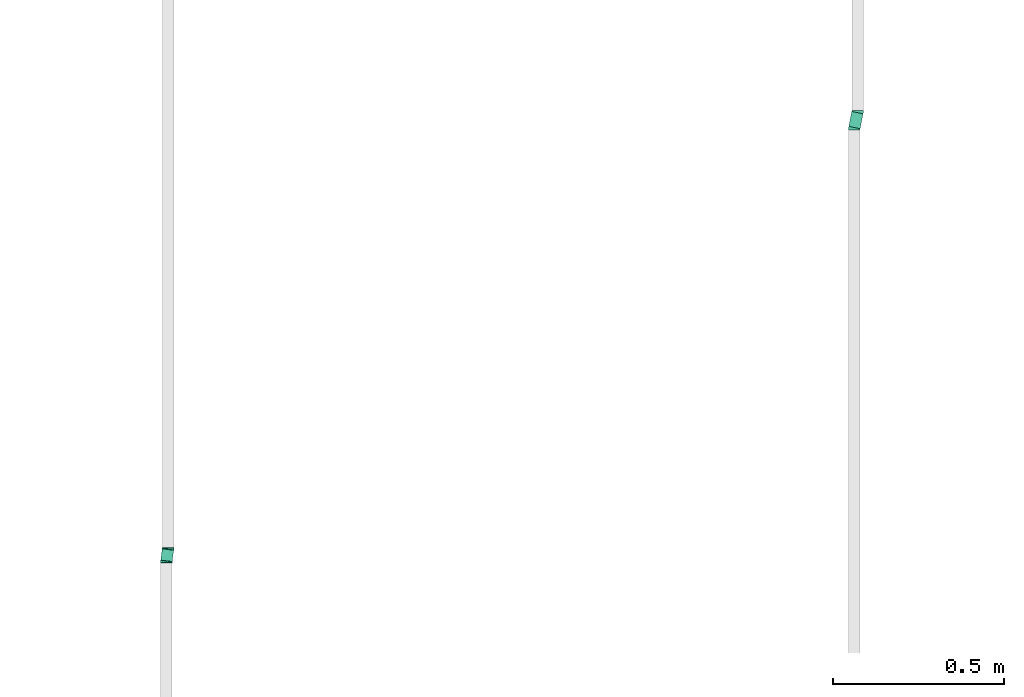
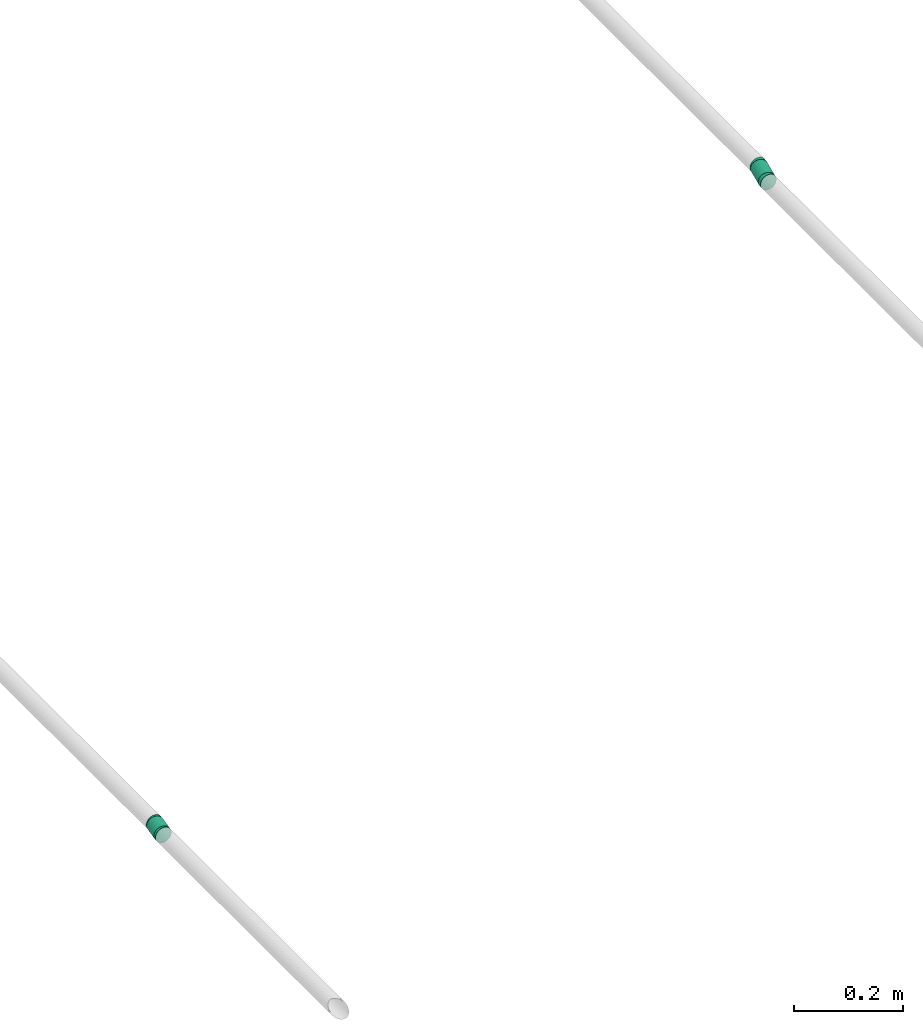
# One storey, part 19 of 32: 4 flow fittings, 2 flow segments.
"""IFC2X3 building model written with IfcOpenShell, lengths in millimetres."""

import ifcopenshell
import ifcopenshell.guid

model = None  # the IFC model being written
_history = None  # IfcOwnerHistory: only IFC2X3 demands one
_inside = {}  # id of a spatial element -> (the spatial element, [elements in it])
_under = {}  # id of a project, library or spatial element -> (it, [spatial elements below it])
_declared = {}  # id of a project -> (the project, [libraries it declares])
_typed = {}  # id of a type object -> (the type object, [elements of that type])
_made_of = {}  # id of a material, layer set ... -> (it, [elements and type objects made of it])


def new_model(schema):
    """Start an empty IFC model of exactly this schema.

    Asked for "IFC4X3", IfcOpenShell would pick the latest addendum, in which some entities
    have other attributes; the version numbers below select the first issue.
    IFC2X3 requires an IfcOwnerHistory on every rooted entity: one is made here for all.
    """
    global model, _history
    if schema == "IFC4X3":
        model = ifcopenshell.file(schema_version=(4, 3, 0, 0))
    else:
        model = ifcopenshell.file(schema=schema)
    _inside.clear()
    _under.clear()
    _declared.clear()
    _typed.clear()
    _made_of.clear()
    _history = None
    if model.schema == "IFC2X3":
        org = make("IfcOrganization", Name="unknown")
        user = make(
            "IfcPersonAndOrganization",
            ThePerson=make("IfcPerson", FamilyName="unknown"),
            TheOrganization=org,
        )
        app = make(
            "IfcApplication",
            ApplicationDeveloper=org,
            Version="unknown",
            ApplicationFullName="unknown",
            ApplicationIdentifier="unknown",
        )
        _history = make(
            "IfcOwnerHistory",
            OwningUser=user,
            OwningApplication=app,
            ChangeAction="ADDED",
            CreationDate=0,
        )
    return model


def make(cls, **values):
    """One entity of the class cls with the attributes given. An attribute that is None is left unset."""
    return model.create_entity(
        cls, **{name: value for name, value in values.items() if value is not None}
    )


def entity(cls, *values):
    """Any entity or typed value of the class cls, its attributes in the order of the schema. None: left unset."""
    e = model.create_entity(cls)
    for i, value in enumerate(values):
        if value is not None:
            e[i] = value
    return e


def rooted(cls, **values):
    """An entity with a GlobalId (a new one), such as an element, a storey or a relation."""
    return make(cls, GlobalId=ifcopenshell.guid.new(), OwnerHistory=_history, **values)


def si_unit(unit_type, name, prefix=None):
    """IfcSIUnit, for example si_unit("LENGTHUNIT", "METRE", prefix="MILLI")."""
    return make("IfcSIUnit", UnitType=unit_type, Prefix=prefix, Name=name)


def converted_unit(unit_type, name, factor, base, dimensions=None, offset=None):
    """IfcConversionBasedUnit, such as the inch: factor (a typed value) times the base unit."""
    return make(
        "IfcConversionBasedUnit"
        if offset is None
        else "IfcConversionBasedUnitWithOffset",
        ConversionOffset=offset,
        Dimensions=None
        if dimensions is None
        else entity("IfcDimensionalExponents", *dimensions),
        UnitType=unit_type,
        Name=name,
        ConversionFactor=make(
            "IfcMeasureWithUnit", ValueComponent=factor, UnitComponent=base
        ),
    )


def derived_unit(unit_type, elements):
    """IfcDerivedUnit: a product of units, each with its exponent."""
    return make(
        "IfcDerivedUnit",
        Elements=[
            make("IfcDerivedUnitElement", Unit=unit, Exponent=power)
            for unit, power in elements
        ],
        UnitType=unit_type,
    )


def assignment(units):
    """IfcUnitAssignment: the units of a project."""
    return None if units is None else make("IfcUnitAssignment", Units=units)


def point(xyz):
    """IfcCartesianPoint."""
    return None if xyz is None else make("IfcCartesianPoint", Coordinates=xyz)


def direction(xyz):
    """IfcDirection."""
    return None if xyz is None else make("IfcDirection", DirectionRatios=xyz)


def frame(location, z_axis=None, x_axis=None):
    """IfcAxis2Placement3D, a coordinate frame: its origin and axes. An axis left out is left unset."""
    return make(
        "IfcAxis2Placement3D",
        Location=point(location),
        Axis=direction(z_axis),
        RefDirection=direction(x_axis),
    )


def frame_2d(location, x_axis=None):
    """IfcAxis2Placement2D, a coordinate frame in the plane: its origin and x axis."""
    return make(
        "IfcAxis2Placement2D", Location=point(location), RefDirection=direction(x_axis)
    )


def origin_with_axes():
    """The frame at (0, 0, 0) with the z axis (0, 0, 1) and the x axis (1, 0, 0) written out."""
    return frame((0.0, 0.0, 0.0), z_axis=(0.0, 0.0, 1.0), x_axis=(1.0, 0.0, 0.0))


def origin_2d_with_axis():
    """The frame at (0, 0) in the plane with the x axis (1, 0) written out."""
    return frame_2d((0.0, 0.0), x_axis=(1.0, 0.0))


def place(relative_to, where):
    """IfcLocalPlacement: puts the frame where relative to a parent placement (None: the world)."""
    return make(
        "IfcLocalPlacement", PlacementRelTo=relative_to, RelativePlacement=where
    )


def context(
    kind, dimensions, precision=None, world=None, true_north=None, identifier=None
):
    """IfcGeometricRepresentationContext, for example the 3D "Model" context."""
    return make(
        "IfcGeometricRepresentationContext",
        ContextIdentifier=identifier,
        ContextType=kind,
        CoordinateSpaceDimension=dimensions,
        Precision=precision,
        WorldCoordinateSystem=world,
        TrueNorth=true_north,
    )


def subcontext(parent, identifier, kind, view, scale=None):
    """IfcGeometricRepresentationSubContext, for example "Body" below "Model"."""
    return make(
        "IfcGeometricRepresentationSubContext",
        ContextIdentifier=identifier,
        ContextType=kind,
        ParentContext=parent,
        TargetScale=scale,
        TargetView=view,
    )


def project(units=None, contexts=None):
    """IfcProject with its units and contexts."""
    return rooted(
        "IfcProject",
        Name="project",
        RepresentationContexts=contexts,
        UnitsInContext=assignment(units),
    )


def spatial(cls, under=None, at=None, **own):
    """A site, building, storey or space (cls), placed at a placement, below another one or the project."""
    s = rooted(cls, ObjectPlacement=at, **own)
    if under is not None:
        _under.setdefault(under.id(), (under, []))[1].append(s)
    return s


def profile(cls, at=None, kind="AREA", **sizes):
    """A parametric profile (cls). Its sizes go by their IFC names, for example OverallWidth=200.0."""
    return make(cls, ProfileType=kind, Position=at, **sizes)


def hollow_circle(**sizes):
    """IfcCircleHollowProfileDef."""
    return profile("IfcCircleHollowProfileDef", **sizes)


def extrude(swept, where, along, depth):
    """IfcExtrudedAreaSolid: the profile swept, set in the frame where, extruded along a direction by depth."""
    return make(
        "IfcExtrudedAreaSolid",
        SweptArea=swept,
        Position=where,
        ExtrudedDirection=direction(along),
        Depth=depth,
    )


def faces_of(points, faces, orient=None, outer=None):
    """IfcFace entities. A face is a list of loops; a loop is a list of indices into points, from 0.

    orient and outer hold one flag for each loop. By default every Orientation is true, the
    first loop of a face is its IfcFaceOuterBound and the others are IfcFaceBound.
    """
    made = []
    for i, loops in enumerate(faces):
        bounds = []
        for j, loop in enumerate(loops):
            is_outer = j == 0 if outer is None else outer[i][j]
            bounds.append(
                make(
                    "IfcFaceOuterBound" if is_outer else "IfcFaceBound",
                    Bound=make("IfcPolyLoop", Polygon=[points[k] for k in loop]),
                    Orientation=True if orient is None else orient[i][j],
                )
            )
        made.append(make("IfcFace", Bounds=bounds))
    return made


def open_shell(faces, orient=None, outer=None):
    """The faces of one IfcOpenShell. surface_model builds it on its shared points."""
    return ("IfcOpenShell", faces, orient, outer)


def surface_model(cls, points, shells):
    """IfcFaceBasedSurfaceModel or IfcShellBasedSurfaceModel (cls): surfaces that need not close."""
    shared = [point(p) for p in points]
    made = [make(c, CfsFaces=faces_of(shared, fs, o, b)) for c, fs, o, b in shells]
    if cls == "IfcFaceBasedSurfaceModel":
        return make(cls, FbsmFaces=made)
    return make(cls, SbsmBoundary=made)


def shape(context_of_items, identifier, shape_type, items):
    """IfcShapeRepresentation: the items that make up one representation, for example the "Body"."""
    return make(
        "IfcShapeRepresentation",
        ContextOfItems=context_of_items,
        RepresentationIdentifier=identifier,
        RepresentationType=shape_type,
        Items=items,
    )


def source(mapping_origin, context_of_items, identifier, shape_type, items):
    """IfcRepresentationMap: a shape defined once, which mapped items show again and again."""
    return make(
        "IfcRepresentationMap",
        MappingOrigin=mapping_origin,
        MappedRepresentation=shape(context_of_items, identifier, shape_type, items),
    )


def transform(
    local_origin,
    x_axis=None,
    y_axis=None,
    z_axis=None,
    scale=None,
    scale2=None,
    scale3=None,
    uniform=True,
):
    """IfcCartesianTransformationOperator3D, or its non-uniform kind. x_axis, y_axis, z_axis: its Axis1, 2, 3."""
    if uniform:
        return make(
            "IfcCartesianTransformationOperator3D",
            Axis1=direction(x_axis),
            Axis2=direction(y_axis),
            LocalOrigin=point(local_origin),
            Scale=scale,
            Axis3=direction(z_axis),
        )
    return make(
        "IfcCartesianTransformationOperator3DnonUniform",
        Axis1=direction(x_axis),
        Axis2=direction(y_axis),
        LocalOrigin=point(local_origin),
        Scale=scale,
        Axis3=direction(z_axis),
        Scale2=scale2,
        Scale3=scale3,
    )


def mapped(mapping_source, mapping_target):
    """IfcMappedItem: shows the shape of a source again, moved by a transform."""
    return make(
        "IfcMappedItem", MappingSource=mapping_source, MappingTarget=mapping_target
    )


def made_of(thing, what):
    """Note that an element or type object is made of a material, layer set ...; save() writes the relation."""
    if what is not None:
        _made_of.setdefault(what.id(), (what, []))[1].append(thing)
    return thing


def type_object(cls, material=None, **own):
    """A type object (cls), such as IfcWallType, which elements share."""
    return made_of(rooted(cls, **own), material)


def element(
    cls,
    number,
    at=None,
    inside=None,
    cuts=None,
    type_object=None,
    material=None,
    context=None,
    identifier="Body",
    shape_type=None,
    held_by="IfcProductDefinitionShape",
    body=None,
    shapes=None,
    **own,
):
    """One element of the class cls, such as IfcWall. Its Tag is "e" and its number.

    at: its placement. inside: the storey or other place that contains it. cuts: it is an
    opening in that element (IfcRelVoidsElement). A single representation is given by context,
    identifier, shape_type and body (its items); several are given by shapes. held_by: the class
    of the entity that holds the representations. save() writes the other relations.
    """
    e = rooted(cls, Tag="e%d" % number, ObjectPlacement=at, **own)
    if body is not None:
        shapes = [shape(context, identifier, shape_type, body)]
    if shapes is not None:
        e.Representation = make(held_by, Representations=shapes)
    if inside is not None:
        _inside.setdefault(inside.id(), (inside, []))[1].append(e)
    if cuts is not None:
        rooted(
            "IfcRelVoidsElement", RelatingBuildingElement=cuts, RelatedOpeningElement=e
        )
    if type_object is not None:
        _typed.setdefault(type_object.id(), (type_object, []))[1].append(e)
    return made_of(e, material)


def aggregate(whole, parts):
    """IfcRelAggregates: a whole, such as a stair, and the parts it consists of."""
    return rooted("IfcRelAggregates", RelatingObject=whole, RelatedObjects=parts)


def save(model, path):
    """Write the relations noted so far, then the file.

    IfcRelAggregates (storeys below a building ...), IfcRelContainedInSpatialStructure (elements
    in a storey), IfcRelDefinesByType, IfcRelAssociatesMaterial and IfcRelDeclares: one each for
    every whole, place, type object, material and project.
    """
    for whole, parts in _under.values():
        aggregate(whole, parts)
    for where, things in _inside.values():
        rooted(
            "IfcRelContainedInSpatialStructure",
            RelatedElements=things,
            RelatingStructure=where,
        )
    for kind, things in _typed.values():
        rooted("IfcRelDefinesByType", RelatedObjects=things, RelatingType=kind)
    for what, things in _made_of.values():
        rooted("IfcRelAssociatesMaterial", RelatedObjects=things, RelatingMaterial=what)
    for by, libraries in _declared.values():
        rooted("IfcRelDeclares", RelatingContext=by, RelatedDefinitions=libraries)
    model.write(path)


model = new_model("IFC2X3")

# Units and contexts
model_context = context("Model", 3, precision=0.01, world=frame((0.0, 4.29681676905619e-09, 0.0)), true_north=direction((4.01073788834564e-13, 1.0)))
plan_context = context("Plan", 3, precision=0.01, world=frame((0.0, 4.29681676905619e-09, 0.0)), true_north=direction((4.01073788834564e-13, 1.0)))
body_context = subcontext(model_context, "Body", "Model", "MODEL_VIEW")
ifc_project = project(units=[converted_unit("PLANEANGLEUNIT", "DEGREE", entity("IfcPositiveLengthMeasure", 0.0174532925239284), si_unit("PLANEANGLEUNIT", "RADIAN"), dimensions=[0, 0, 0, 0, 0, 0, 0]), si_unit("AREAUNIT", "SQUARE_METRE"), si_unit("LENGTHUNIT", "METRE", prefix="MILLI"), si_unit("MASSUNIT", "GRAM", prefix="KILO"), si_unit("POWERUNIT", "WATT"), si_unit("PRESSUREUNIT", "PASCAL", prefix="KILO"), si_unit("FORCEUNIT", "NEWTON", prefix="KILO"), si_unit("ELECTRICVOLTAGEUNIT", "VOLT"), si_unit("ELECTRICCURRENTUNIT", "AMPERE"), si_unit("THERMODYNAMICTEMPERATUREUNIT", "DEGREE_CELSIUS"), si_unit("TIMEUNIT", "SECOND"), si_unit("VOLUMEUNIT", "CUBIC_METRE"), derived_unit("LINEARVELOCITYUNIT", [(si_unit("LENGTHUNIT", "METRE"), 1), (si_unit("TIMEUNIT", "SECOND"), -1)]), derived_unit("VOLUMETRICFLOWRATEUNIT", [(si_unit("VOLUMEUNIT", "CUBIC_METRE"), 1), (si_unit("TIMEUNIT", "SECOND"), -1)]), derived_unit("THERMALTRANSMITTANCEUNIT", [(si_unit("POWERUNIT", "WATT"), 1), (si_unit("THERMODYNAMICTEMPERATUREUNIT", "KELVIN"), -1), (si_unit("AREAUNIT", "SQUARE_METRE"), -1)]), derived_unit("SOUNDPRESSUREUNIT", [(si_unit("PRESSUREUNIT", "PASCAL"), 1)])], contexts=[model_context, plan_context])

# Site, building, storey
site_placement = place(None, frame((0.0, -4.29681676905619e-09, 0.0), z_axis=(0.0, 0.0, 1.0), x_axis=(1.0, 0.0, 0.0)))
site = spatial("IfcSite", under=ifc_project, at=site_placement, CompositionType="ELEMENT")
building_placement = place(site_placement, frame((0.0, 4.29681676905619e-09, 0.0), z_axis=(0.0, 0.0, 1.0), x_axis=(1.0, 0.0, 0.0)))
building = spatial("IfcBuilding", under=site, at=building_placement, Name="mc-building", CompositionType="ELEMENT")
storey_placement = place(building_placement, frame((0.0, 0.0, 205200.0), z_axis=(0.0, 0.0, 1.0), x_axis=(1.0, 0.0, 0.0)))
storey = spatial("IfcBuildingStorey", under=building, at=storey_placement, Name="Nivå D + 1,2 m", CompositionType="ELEMENT", Elevation=205200.0)

# Flow fittings
pipe_fitting_type = type_object("IfcPipeFittingType", Name="magi_pipe_fe_elbow_short_001", PredefinedType="BEND")
shared_shape_1 = source(origin_with_axes(), body_context, "Body", "SurfaceModel", [
    surface_model("IfcShellBasedSurfaceModel", [(-2.16887, 4.37404, -16.32415), (-2.16887, 0.0, -16.9), (-2.16887, 11.9501, -11.9501), (-2.16887, 8.45, -14.63583), (-2.16887, 16.32415, -4.37404), (-2.16887, 14.63583, -8.45), (-2.16887, -14.63583, -8.45), (-2.16887, -16.32415, -4.37404), (-2.16887, -8.45, 14.63583), (-2.16887, -11.9501, -11.9501), (-2.16887, -8.45, -14.63583), (-2.16887, -4.37404, -16.32415), (-2.16887, -16.9, 0.0), (-2.16887, -16.32415, 4.37404), (-2.16887, 11.9501, 11.9501), (-2.16887, 16.32415, 4.37404), (-2.16887, 14.63583, 8.45), (-2.16887, 4.37404, 16.32415), (-2.16887, 8.45, 14.63583), (-2.16887, -14.63583, 8.45), (-2.16887, -11.9501, 11.9501), (-2.16887, -4.37404, 16.32415), (-2.16887, 0.0, 16.9), (-2.16887, 16.9, 0.0), (1.59204, 4.61537, -16.32415), (4.02167, -14.2386, -8.45), (2.15108, 0.2772, -16.9), (0.06471, 16.46747, -4.37404), (1.07109, 8.6579, -14.63583), (0.62375, 12.1293, -11.9501), (0.28049, 14.793, -8.45), (3.23107, -8.1035, -14.63583), (3.67841, -11.5749, -11.9501), (2.71012, -4.06097, -16.32415), (3.67841, -11.5749, 11.9501), (4.23746, -15.91307, -4.37404), (4.02167, -14.2386, 8.45), (4.31105, -16.4842, 0.0), (3.23107, -8.1035, 14.63583), (0.06471, 16.46747, 4.37404), (0.62375, 12.1293, 11.9501), (0.28049, 14.793, 8.45), (1.07109, 8.6579, 14.63583), (1.59204, 4.61537, 16.32415), (4.23746, -15.91307, 4.37404), (2.15108, 0.2772, 16.9), (2.71012, -4.06097, 16.32415), (-0.00889, 17.0386, 0.0), (-1.08666, 16.93469, 0.0), (1.07776, -16.79594, 0.0)], [open_shell([[[0, 1, 2]], [[3, 0, 2]], [[4, 5, 2]], [[6, 2, 1]], [[2, 7, 8]], [[9, 6, 10]], [[1, 11, 10]], [[1, 10, 6]], [[6, 7, 2]], [[12, 13, 7]], [[4, 2, 14]], [[14, 15, 4]], [[16, 15, 14]], [[17, 18, 14]], [[2, 8, 14]], [[17, 14, 8]], [[19, 20, 13]], [[13, 20, 7]], [[21, 22, 8]], [[20, 8, 7]], [[8, 22, 17]], [[23, 4, 15]], [[24, 25, 26]], [[27, 24, 28]], [[29, 30, 27]], [[29, 27, 28]], [[25, 24, 27]], [[31, 25, 32]], [[31, 33, 26]], [[25, 34, 35]], [[31, 26, 25]], [[36, 37, 35]], [[38, 25, 27]], [[27, 39, 40]], [[40, 39, 41]], [[40, 42, 43]], [[40, 38, 27]], [[43, 38, 40]], [[35, 34, 36]], [[36, 44, 37]], [[38, 45, 46]], [[38, 34, 25]], [[43, 45, 38]], [[27, 47, 39]], [[34, 8, 20]], [[20, 19, 36]], [[45, 22, 21]], [[22, 45, 17]], [[21, 8, 38]], [[44, 19, 13]], [[16, 14, 41]], [[18, 40, 14]], [[48, 15, 39]], [[48, 23, 15]], [[39, 15, 16]], [[42, 18, 17]], [[13, 12, 49]], [[38, 46, 21]], [[8, 34, 38]], [[46, 45, 21]], [[19, 44, 36]], [[20, 36, 34]], [[44, 49, 37]], [[41, 39, 16]], [[47, 48, 39]], [[42, 17, 43]], [[18, 42, 40]], [[41, 14, 40]], [[43, 17, 45]], [[13, 49, 44]], [[11, 1, 26]], [[1, 0, 26]], [[30, 2, 5]], [[3, 2, 29]], [[3, 28, 0]], [[4, 27, 5]], [[49, 12, 7]], [[35, 49, 7]], [[32, 9, 10]], [[7, 6, 35]], [[9, 25, 6]], [[31, 10, 11]], [[4, 23, 48]], [[48, 47, 27]], [[27, 30, 5]], [[3, 29, 28]], [[0, 28, 24]], [[2, 30, 29]], [[24, 26, 0]], [[31, 11, 33]], [[32, 10, 31]], [[6, 25, 35]], [[35, 37, 49]], [[25, 9, 32]], [[26, 33, 11]], [[4, 48, 27]]])]),
])
for number, where, z_axis, x_axis, name in (
    (1, (343462.5, 461527.23146, 4444.43145999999), (0.0, 0.0, 1.0), (0.127808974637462, 0.991798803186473, 0.0), "magi_pipe_fe_elbow_short_001"),
    (2, (343457.5, 461488.43146, 4444.43145999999), (0.0, 0.0, 1.0), (-0.127808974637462, -0.991798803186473, 0.0), "magi_pipe_fe_elbow_short_001"),
):
    element("IfcFlowFitting", number, at=place(storey_placement, frame(where, z_axis=z_axis, x_axis=x_axis)), inside=storey, type_object=pipe_fitting_type, Name=name, context=body_context, shape_type="MappedRepresentation", body=[
        mapped(shared_shape_1, transform((0.0, 0.0, 0.0), scale=1.0)),
    ])
shared_shape_2 = source(origin_with_axes(), body_context, "Body", "SurfaceModel", [
    surface_model("IfcShellBasedSurfaceModel", [(-3.34686, 4.37404, -16.32415), (-3.34686, 0.0, -16.9), (-3.34686, 11.9501, -11.9501), (-3.34686, 8.45, -14.63583), (-3.34686, 16.32415, -4.37404), (-3.34686, 14.63583, -8.45), (-3.34686, -14.63583, -8.45), (-3.34686, -16.32415, -4.37404), (-3.34686, -8.45, 14.63583), (-3.34686, -11.9501, -11.9501), (-3.34686, -8.45, -14.63583), (-3.34686, -4.37404, -16.32415), (-3.34686, -16.9, 0.0), (-3.34686, -16.32415, 4.37404), (-3.34686, 11.9501, 11.9501), (-3.34686, 16.32415, 4.37404), (-3.34686, 14.63583, 8.45), (-3.34686, 4.37404, 16.32415), (-3.34686, 8.45, 14.63583), (-3.34686, -14.63583, 8.45), (-3.34686, -11.9501, 11.9501), (-3.34686, -4.37404, 16.32415), (-3.34686, 0.0, 16.9), (-3.34686, 16.9, 0.0), (3.28187, 0.65637, -16.9), (2.42405, 4.94547, -16.32415), (1.62468, 8.94228, -14.63583), (6.15219, -13.69524, -8.45), (0.93826, 12.37442, -11.9501), (0.41154, 15.00798, -8.45), (0.08044, 16.66352, -4.37404), (6.48329, -15.35077, -4.37404), (4.93905, -7.62953, 14.63583), (4.93905, -7.62953, -14.63583), (5.62547, -11.06167, -11.9501), (4.13969, -3.63273, -16.32415), (6.48329, -15.35077, 4.37404), (6.59623, -15.91544, 0.0), (0.93826, 12.37442, 11.9501), (0.08044, 16.66352, 4.37404), (0.41154, 15.00798, 8.45), (1.62468, 8.94228, 14.63583), (2.42405, 4.94547, 16.32415), (6.15219, -13.69524, 8.45), (5.62547, -11.06167, 11.9501), (3.28187, 0.65637, 16.9), (4.13969, -3.63273, 16.32415), (-0.0325, 17.22819, 0.0), (-1.68157, 16.98225, 0.0), (1.649, -16.65326, 0.0)], [open_shell([[[0, 1, 2]], [[3, 0, 2]], [[4, 5, 2]], [[6, 2, 1]], [[2, 7, 8]], [[9, 6, 10]], [[1, 11, 10]], [[1, 10, 6]], [[6, 7, 2]], [[12, 13, 7]], [[4, 2, 14]], [[14, 15, 4]], [[16, 15, 14]], [[17, 18, 14]], [[2, 8, 14]], [[17, 14, 8]], [[19, 20, 13]], [[13, 20, 7]], [[21, 22, 8]], [[20, 8, 7]], [[8, 22, 17]], [[23, 4, 15]], [[24, 25, 26]], [[27, 24, 26]], [[28, 29, 30]], [[31, 26, 32]], [[26, 28, 32]], [[33, 27, 34]], [[27, 33, 35]], [[24, 27, 35]], [[26, 31, 27]], [[31, 36, 37]], [[38, 28, 30]], [[30, 39, 38]], [[38, 39, 40]], [[38, 41, 42]], [[28, 38, 32]], [[32, 38, 42]], [[31, 43, 36]], [[31, 44, 43]], [[32, 45, 46]], [[31, 32, 44]], [[42, 45, 32]], [[30, 47, 39]], [[8, 20, 32]], [[20, 19, 43]], [[8, 32, 21]], [[22, 42, 17]], [[45, 22, 21]], [[13, 36, 19]], [[16, 14, 40]], [[18, 38, 14]], [[48, 15, 39]], [[48, 23, 15]], [[39, 15, 16]], [[41, 18, 17]], [[13, 12, 49]], [[32, 46, 21]], [[20, 44, 32]], [[46, 45, 21]], [[19, 36, 43]], [[20, 43, 44]], [[36, 49, 37]], [[40, 39, 16]], [[47, 48, 39]], [[41, 17, 42]], [[18, 41, 38]], [[40, 14, 38]], [[42, 22, 45]], [[13, 49, 36]], [[0, 25, 1]], [[35, 11, 1]], [[29, 2, 5]], [[2, 28, 3]], [[3, 26, 0]], [[4, 30, 5]], [[49, 12, 7]], [[31, 49, 7]], [[34, 9, 10]], [[7, 6, 31]], [[9, 27, 6]], [[33, 10, 11]], [[4, 23, 48]], [[48, 47, 30]], [[30, 29, 5]], [[3, 28, 26]], [[0, 26, 25]], [[2, 29, 28]], [[25, 24, 1]], [[33, 11, 35]], [[34, 10, 33]], [[6, 27, 31]], [[31, 37, 49]], [[27, 9, 34]], [[24, 35, 1]], [[4, 48, 30]]])]),
])
for number, where, z_axis, x_axis, name in (
    (3, (345472.5, 462757.23146, 4434.19579999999), (0.0, 0.0, 1.0), (-0.196115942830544, -0.980580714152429, 0.0), "magi_pipe_fe_elbow_short_001"),
    (4, (345482.5, 462807.23146, 4434.19579999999), (0.0, 0.0, 1.0), (0.196115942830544, 0.980580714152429, 0.0), "magi_pipe_fe_elbow_short_001"),
):
    element("IfcFlowFitting", number, at=place(storey_placement, frame(where, z_axis=z_axis, x_axis=x_axis)), inside=storey, type_object=pipe_fitting_type, Name=name, context=body_context, shape_type="MappedRepresentation", body=[
        mapped(shared_shape_2, transform((0.0, 0.0, 0.0), scale=1.0)),
    ])

# Flow segments
pipe_segment_type = type_object("IfcPipeSegmentType", Name="Stålrør normaltykke", PredefinedType="RIGIDSEGMENT")
shared_shape_3 = source(origin_with_axes(), body_context, "Body", "SweptSolid", [
    extrude(hollow_circle(Radius=16.9, WallThickness=2.0, at=origin_2d_with_axis()), frame((0.0, 0.0, 0.0), z_axis=(1.0, 0.0, 0.0), x_axis=(0.0, 1.0, 0.0)), (0.0, 0.0, 1.0), 34.8),
])
flow_segment_1_placement = place(storey_placement, frame((343462.2228, 461525.08038, 4444.43145999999), z_axis=(0.0, 0.0, 1.0), x_axis=(-0.127808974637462, -0.991798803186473, 0.0)))
element("IfcFlowSegment", 5, at=flow_segment_1_placement, inside=storey, type_object=pipe_segment_type, Name="Stålrør normaltykke", context=body_context, shape_type="MappedRepresentation", body=[
    mapped(shared_shape_3, transform((0.0, 0.0, 0.0), scale=1.0)),
])
shared_shape_4 = source(origin_with_axes(), body_context, "Body", "SweptSolid", [
    extrude(hollow_circle(Radius=16.9, WallThickness=2.0, at=origin_2d_with_axis()), frame((0.0, 0.0, 0.0), z_axis=(1.0, 0.0, 0.0), x_axis=(0.0, 1.0, 0.0)), (0.0, 0.0, 1.0), 44.3),
])
flow_segment_2_placement = place(storey_placement, frame((345473.15637, 462760.51332, 4434.19579999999), z_axis=(0.0, 0.0, 1.0), x_axis=(0.196115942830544, 0.980580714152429, 0.0)))
element("IfcFlowSegment", 6, at=flow_segment_2_placement, inside=storey, type_object=pipe_segment_type, Name="Stålrør normaltykke", context=body_context, shape_type="MappedRepresentation", body=[
    mapped(shared_shape_4, transform((0.0, 0.0, 0.0), scale=1.0)),
])

save(model, "model.ifc")
